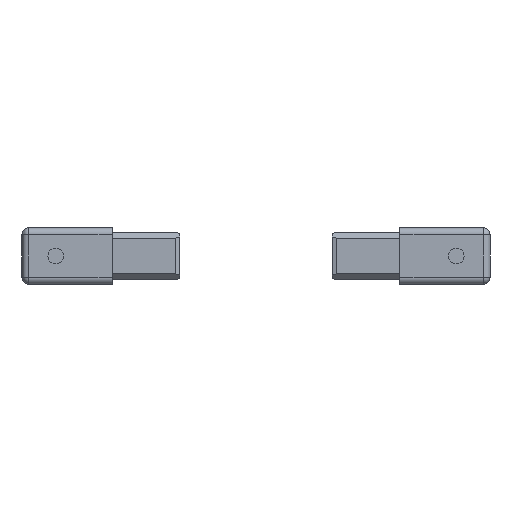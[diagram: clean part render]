
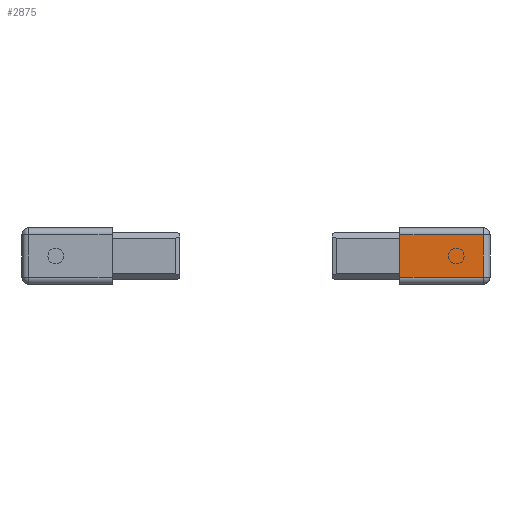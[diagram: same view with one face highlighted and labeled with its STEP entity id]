
A CAD part, front view. The second image highlights one B-rep face of the part: STEP entity #2875.
In plain terms, the highlighted planar face has unit normal (0, -1, 0) as drawn and (0, 1, 0) by its records, which use the part's own axes.
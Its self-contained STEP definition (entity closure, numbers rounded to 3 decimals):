
#51 = VECTOR ( 'NONE', #192, 1000. ) ;
#59 = CARTESIAN_POINT ( 'NONE',  ( -40., 40., 22. ) ) ;
#75 = CARTESIAN_POINT ( 'NONE',  ( -3., 40., 25. ) ) ;
#123 = CARTESIAN_POINT ( 'NONE',  ( -40., 40., 3. ) ) ;
#143 = LINE ( 'NONE', #854, #1175 ) ;
#159 = DIRECTION ( 'NONE',  ( 1., 0., 0. ) ) ;
#192 = DIRECTION ( 'NONE',  ( 0., 0., -1. ) ) ;
#666 = VECTOR ( 'NONE', #3161, 1000. ) ;
#738 = EDGE_CURVE ( 'NONE', #2618, #2454, #143, .T. ) ;
#767 = EDGE_LOOP ( 'NONE', ( #2259, #2408, #2143, #2594 ) ) ;
#841 = DIRECTION ( 'NONE',  ( -1., 0., 0. ) ) ;
#854 = CARTESIAN_POINT ( 'NONE',  ( 0., 40., 3. ) ) ;
#936 = LINE ( 'NONE', #3332, #51 ) ;
#963 = VECTOR ( 'NONE', #159, 1000. ) ;
#1175 = VECTOR ( 'NONE', #841, 1000. ) ;
#1202 = CARTESIAN_POINT ( 'NONE',  ( 0., 40., 22. ) ) ;
#1244 = EDGE_CURVE ( 'NONE', #3069, #2454, #936, .T. ) ;
#1324 = PLANE ( 'NONE',  #2150 ) ;
#1474 = LINE ( 'NONE', #1202, #963 ) ;
#1747 = CARTESIAN_POINT ( 'NONE',  ( -3., 40., 3. ) ) ;
#1818 = FACE_OUTER_BOUND ( 'NONE', #767, .T. ) ;
#2143 = ORIENTED_EDGE ( 'NONE', *, *, #2927, .T. ) ;
#2150 = AXIS2_PLACEMENT_3D ( 'NONE', #2335, #3075, #2366 ) ;
#2246 = CARTESIAN_POINT ( 'NONE',  ( -3., 40., 22. ) ) ;
#2259 = ORIENTED_EDGE ( 'NONE', *, *, #1244, .F. ) ;
#2335 = CARTESIAN_POINT ( 'NONE',  ( 0., 40., 25. ) ) ;
#2366 = DIRECTION ( 'NONE',  ( 1., 0., 0. ) ) ;
#2381 = EDGE_CURVE ( 'NONE', #3069, #2743, #1474, .T. ) ;
#2408 = ORIENTED_EDGE ( 'NONE', *, *, #2381, .T. ) ;
#2454 = VERTEX_POINT ( 'NONE', #123 ) ;
#2594 = ORIENTED_EDGE ( 'NONE', *, *, #738, .T. ) ;
#2618 = VERTEX_POINT ( 'NONE', #1747 ) ;
#2636 = LINE ( 'NONE', #75, #666 ) ;
#2743 = VERTEX_POINT ( 'NONE', #2246 ) ;
#2875 = ADVANCED_FACE ( 'NONE', ( #1818 ), #1324, .F. ) ;
#2927 = EDGE_CURVE ( 'NONE', #2743, #2618, #2636, .T. ) ;
#3069 = VERTEX_POINT ( 'NONE', #59 ) ;
#3075 = DIRECTION ( 'NONE',  ( 0., -1., 0. ) ) ;
#3161 = DIRECTION ( 'NONE',  ( 0., 0., -1. ) ) ;
#3332 = CARTESIAN_POINT ( 'NONE',  ( -40., 40., 25. ) ) ;
